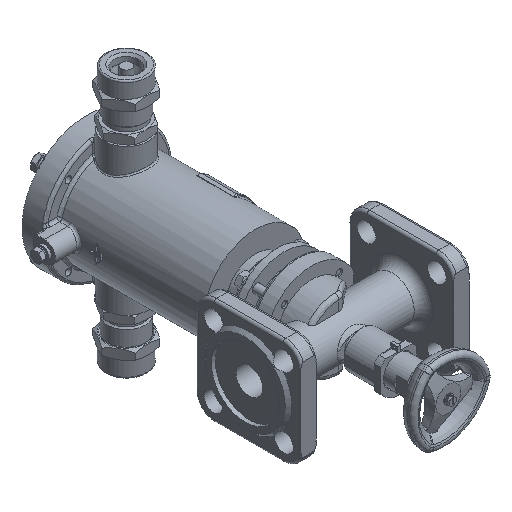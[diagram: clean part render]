
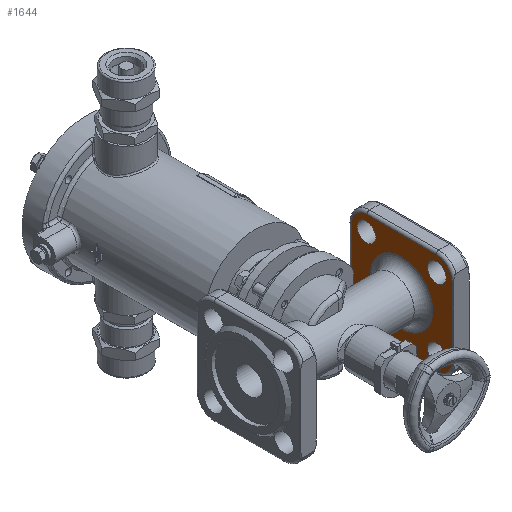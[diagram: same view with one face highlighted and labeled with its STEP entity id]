
A CAD part, isometric view. The second image highlights one B-rep face of the part: STEP entity #1644.
In plain terms, the highlighted planar face has unit normal (-1, 0, 0).
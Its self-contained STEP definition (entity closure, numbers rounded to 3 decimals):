
#1644=ADVANCED_FACE('',(#19302,#19304,#19306,#19308,#19310,#19312),#19314,.T.);
#19302=FACE_BOUND('',#19303,.T.);
#19303=EDGE_LOOP('',(#31081));
#19304=FACE_BOUND('',#19305,.T.);
#19305=EDGE_LOOP('',(#31082));
#19306=FACE_BOUND('',#19307,.T.);
#19307=EDGE_LOOP('',(#31083));
#19308=FACE_BOUND('',#19309,.T.);
#19309=EDGE_LOOP('',(#31084));
#19310=FACE_BOUND('',#19311,.T.);
#19311=EDGE_LOOP('',(#31085));
#19312=FACE_OUTER_BOUND('',#19313,.T.);
#19313=EDGE_LOOP('',(#31086,#31087,#31088,#31089,#31090,#31091,#31092,#31093));
#19314=PLANE('',#19315);
#19315=AXIS2_PLACEMENT_3D('',#19316,#19317,#19318);
#19316=CARTESIAN_POINT('',(51.5,0.,0.));
#19317=DIRECTION('',(-1.,-0.,-0.));
#19318=DIRECTION('',(0.,1.,0.));
#31081=ORIENTED_EDGE('',*,*,#41108,.T.);
#31082=ORIENTED_EDGE('',*,*,#41109,.T.);
#31083=ORIENTED_EDGE('',*,*,#41110,.T.);
#31084=ORIENTED_EDGE('',*,*,#41111,.T.);
#31085=ORIENTED_EDGE('',*,*,#41067,.T.);
#31086=ORIENTED_EDGE('',*,*,#41112,.T.);
#31087=ORIENTED_EDGE('',*,*,#41113,.T.);
#31088=ORIENTED_EDGE('',*,*,#41114,.T.);
#31089=ORIENTED_EDGE('',*,*,#41115,.T.);
#31090=ORIENTED_EDGE('',*,*,#41116,.T.);
#31091=ORIENTED_EDGE('',*,*,#41117,.T.);
#31092=ORIENTED_EDGE('',*,*,#41118,.T.);
#31093=ORIENTED_EDGE('',*,*,#41119,.T.);
#41067=EDGE_CURVE('',#48927,#48927,#48928,.T.);
#41108=EDGE_CURVE('',#48987,#48987,#48988,.T.);
#41109=EDGE_CURVE('',#48989,#48989,#48990,.T.);
#41110=EDGE_CURVE('',#48991,#48991,#48992,.T.);
#41111=EDGE_CURVE('',#48993,#48993,#48994,.T.);
#41112=EDGE_CURVE('',#48995,#48996,#48997,.F.);
#41113=EDGE_CURVE('',#48996,#48998,#48999,.T.);
#41114=EDGE_CURVE('',#48998,#49000,#49001,.F.);
#41115=EDGE_CURVE('',#49000,#49002,#49003,.T.);
#41116=EDGE_CURVE('',#49002,#49004,#49005,.F.);
#41117=EDGE_CURVE('',#49004,#49006,#49007,.T.);
#41118=EDGE_CURVE('',#49006,#49008,#49009,.F.);
#41119=EDGE_CURVE('',#49008,#48995,#49010,.T.);
#48927=VERTEX_POINT('',#74769);
#48928=CIRCLE('',#74770,23.5);
#48987=VERTEX_POINT('',#75243);
#48988=CIRCLE('',#75244,7.);
#48989=VERTEX_POINT('',#75248);
#48990=CIRCLE('',#75249,7.);
#48991=VERTEX_POINT('',#75253);
#48992=CIRCLE('',#75254,7.);
#48993=VERTEX_POINT('',#75258);
#48994=CIRCLE('',#75259,7.);
#48995=VERTEX_POINT('',#75263);
#48996=VERTEX_POINT('',#75264);
#48997=LINE('',#75265,#75266);
#48998=VERTEX_POINT('',#75268);
#48999=CIRCLE('',#75269,12.);
#49000=VERTEX_POINT('',#75273);
#49001=LINE('',#75274,#75275);
#49002=VERTEX_POINT('',#75277);
#49003=CIRCLE('',#75278,12.);
#49004=VERTEX_POINT('',#75282);
#49005=LINE('',#75283,#75284);
#49006=VERTEX_POINT('',#75286);
#49007=CIRCLE('',#75287,12.);
#49008=VERTEX_POINT('',#75291);
#49009=LINE('',#75292,#75293);
#49010=CIRCLE('',#75295,12.);
#74769=CARTESIAN_POINT('',(51.5,23.5,0.));
#74770=AXIS2_PLACEMENT_3D('',#74771,#74772,#74773);
#74771=CARTESIAN_POINT('',(51.5,0.,0.));
#74772=DIRECTION('',(1.,0.,0.));
#74773=DIRECTION('',(0.,1.,0.));
#75243=CARTESIAN_POINT('',(51.5,-26.517,-19.517));
#75244=AXIS2_PLACEMENT_3D('',#75245,#75246,#75247);
#75245=CARTESIAN_POINT('',(51.5,-26.517,-26.517));
#75246=DIRECTION('',(1.,0.,0.));
#75247=DIRECTION('',(0.,0.,1.));
#75248=CARTESIAN_POINT('',(51.5,26.517,-19.517));
#75249=AXIS2_PLACEMENT_3D('',#75250,#75251,#75252);
#75250=CARTESIAN_POINT('',(51.5,26.517,-26.517));
#75251=DIRECTION('',(1.,0.,0.));
#75252=DIRECTION('',(0.,0.,1.));
#75253=CARTESIAN_POINT('',(51.5,26.517,33.517));
#75254=AXIS2_PLACEMENT_3D('',#75255,#75256,#75257);
#75255=CARTESIAN_POINT('',(51.5,26.517,26.517));
#75256=DIRECTION('',(1.,0.,0.));
#75257=DIRECTION('',(0.,0.,1.));
#75258=CARTESIAN_POINT('',(51.5,-26.517,33.517));
#75259=AXIS2_PLACEMENT_3D('',#75260,#75261,#75262);
#75260=CARTESIAN_POINT('',(51.5,-26.517,26.517));
#75261=DIRECTION('',(1.,0.,0.));
#75262=DIRECTION('',(0.,0.,1.));
#75263=CARTESIAN_POINT('',(51.5,38.,26.));
#75264=CARTESIAN_POINT('',(51.5,38.,-26.));
#75265=CARTESIAN_POINT('',(51.5,38.,-26.));
#75266=VECTOR('',#75267,1.);
#75267=DIRECTION('',(0.,0.,1.));
#75268=CARTESIAN_POINT('',(51.5,26.,-38.));
#75269=AXIS2_PLACEMENT_3D('',#75270,#75271,#75272);
#75270=CARTESIAN_POINT('',(51.5,26.,-26.));
#75271=DIRECTION('',(-1.,0.,0.));
#75272=DIRECTION('',(0.,1.,0.));
#75273=CARTESIAN_POINT('',(51.5,-26.,-38.));
#75274=CARTESIAN_POINT('',(51.5,-26.,-38.));
#75275=VECTOR('',#75276,1.);
#75276=DIRECTION('',(0.,1.,0.));
#75277=CARTESIAN_POINT('',(51.5,-38.,-26.));
#75278=AXIS2_PLACEMENT_3D('',#75279,#75280,#75281);
#75279=CARTESIAN_POINT('',(51.5,-26.,-26.));
#75280=DIRECTION('',(-1.,0.,-0.));
#75281=DIRECTION('',(0.,0.,-1.));
#75282=CARTESIAN_POINT('',(51.5,-38.,26.));
#75283=CARTESIAN_POINT('',(51.5,-38.,26.));
#75284=VECTOR('',#75285,1.);
#75285=DIRECTION('',(0.,0.,-1.));
#75286=CARTESIAN_POINT('',(51.5,-26.,38.));
#75287=AXIS2_PLACEMENT_3D('',#75288,#75289,#75290);
#75288=CARTESIAN_POINT('',(51.5,-26.,26.));
#75289=DIRECTION('',(-1.,-0.,0.));
#75290=DIRECTION('',(0.,-1.,0.));
#75291=CARTESIAN_POINT('',(51.5,26.,38.));
#75292=CARTESIAN_POINT('',(51.5,26.,38.));
#75293=VECTOR('',#75294,1.);
#75294=DIRECTION('',(0.,-1.,0.));
#75295=AXIS2_PLACEMENT_3D('',#75296,#75297,#75298);
#75296=CARTESIAN_POINT('',(51.5,26.,26.));
#75297=DIRECTION('',(-1.,0.,0.));
#75298=DIRECTION('',(0.,0.,1.));
